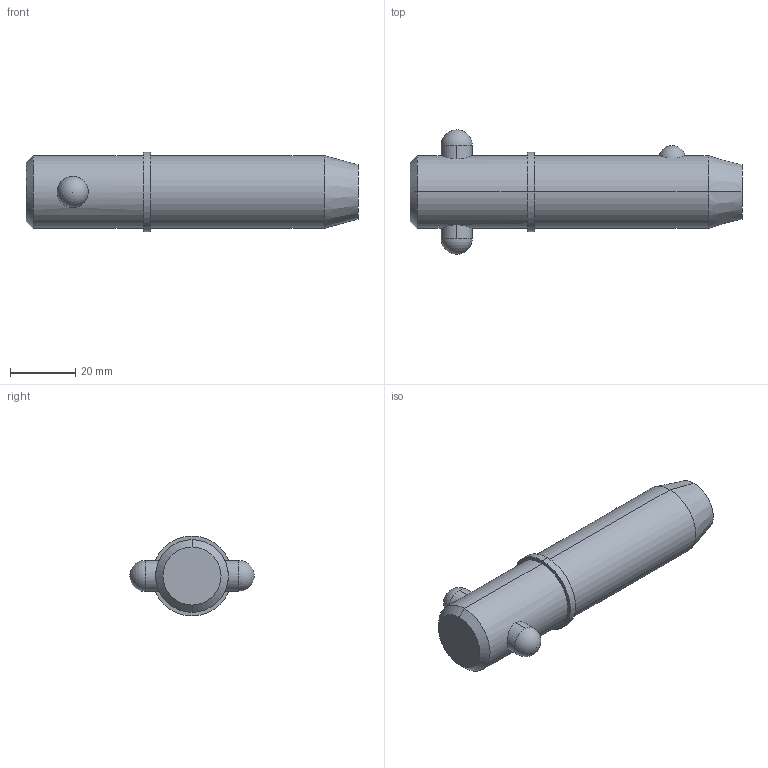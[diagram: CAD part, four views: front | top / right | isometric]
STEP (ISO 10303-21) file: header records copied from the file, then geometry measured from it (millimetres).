
FILE_DESCRIPTION (( 'STEP AP203' ), '1' );
FILE_NAME ('33018.W8815.step', '2024-11-19T17:21:52', ( '' ), ( '' ), 'SwSTEP 2.0', 'SolidWorks 2019', '' );
FILE_SCHEMA (( 'CONFIG_CONTROL_DESIGN' ));
Length unit declared in the file: millimetre
Products named in the file (3): Part1_33018.W8815; Part2_33018.W8815; 33018.W8815
Assembly tree (2 placements, depth 2):
  33018.W8815
    Part1_33018.W8815
    Part2_33018.W8815
Bounding box: 101.6 x 38.1 x 24.45 mm (x, y, z)
Volume: 39575.6 mm3; surface area: 9378.8 mm2
Topology: 2 solids, 2 shells, 22 faces, 47 edges, 30 vertices
Faces by surface type: cylinder 10, sphere 4, cone 4, plane 4
Entity records: 1057 total; most frequent: CARTESIAN_POINT 300, DIRECTION 110, ORIENTED_EDGE 82, AXIS2_PLACEMENT_3D 48, EDGE_CURVE 41, EDGE_LOOP 27, PERSON_AND_ORGANIZATION 26, VERTEX_POINT 26
